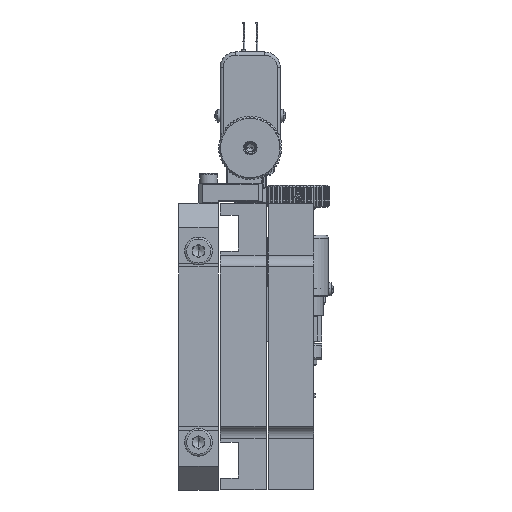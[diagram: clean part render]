
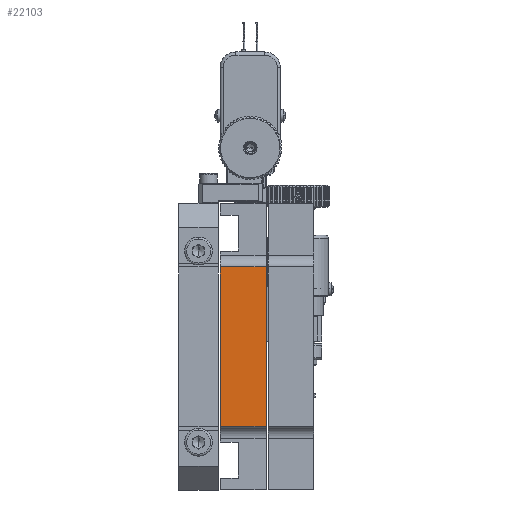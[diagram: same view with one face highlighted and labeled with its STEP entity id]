
A CAD part, front view. The second image highlights one B-rep face of the part: STEP entity #22103.
In plain terms, the highlighted planar face has unit normal (0, -1, 0).
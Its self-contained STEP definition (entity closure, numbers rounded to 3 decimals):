
#3640 = LINE ( 'NONE', #30600, #53688 ) ;
#6367 = DIRECTION ( 'NONE',  ( 0., -1., 0. ) ) ;
#6648 = EDGE_CURVE ( 'NONE', #79636, #74688, #3640, .T. ) ;
#7754 = VERTEX_POINT ( 'NONE', #57244 ) ;
#8533 = DIRECTION ( 'NONE',  ( 0., 0., -1. ) ) ;
#8878 = EDGE_CURVE ( 'NONE', #7754, #74688, #12157, .T. ) ;
#12157 = LINE ( 'NONE', #41091, #22406 ) ;
#12838 = EDGE_CURVE ( 'NONE', #23151, #79636, #74134, .T. ) ;
#15554 = ORIENTED_EDGE ( 'NONE', *, *, #12838, .T. ) ;
#16950 = ORIENTED_EDGE ( 'NONE', *, *, #70278, .F. ) ;
#22103 = ADVANCED_FACE ( 'NONE', ( #47323 ), #83511, .T. ) ;
#22406 = VECTOR ( 'NONE', #8533, 1000. ) ;
#23151 = VERTEX_POINT ( 'NONE', #36771 ) ;
#24002 = LINE ( 'NONE', #38903, #76136 ) ;
#25268 = DIRECTION ( 'NONE',  ( 0., 0., -1. ) ) ;
#30600 = CARTESIAN_POINT ( 'NONE',  ( 35.041, -56.279, -26.592 ) ) ;
#36771 = CARTESIAN_POINT ( 'NONE',  ( 35.541, -56.279, 13.408 ) ) ;
#38298 = VECTOR ( 'NONE', #72861, 1000. ) ;
#38903 = CARTESIAN_POINT ( 'NONE',  ( 35.041, -56.279, 13.408 ) ) ;
#41091 = CARTESIAN_POINT ( 'NONE',  ( 47.041, -56.279, 29.408 ) ) ;
#46538 = CARTESIAN_POINT ( 'NONE',  ( 35.541, -56.279, -30.592 ) ) ;
#47323 = FACE_OUTER_BOUND ( 'NONE', #55961, .T. ) ;
#53688 = VECTOR ( 'NONE', #75444, 1000. ) ;
#55961 = EDGE_LOOP ( 'NONE', ( #80642, #58538, #16950, #15554 ) ) ;
#57244 = CARTESIAN_POINT ( 'NONE',  ( 47.041, -56.279, 13.408 ) ) ;
#58538 = ORIENTED_EDGE ( 'NONE', *, *, #8878, .F. ) ;
#65209 = CARTESIAN_POINT ( 'NONE',  ( 59.041, -56.279, -6.592 ) ) ;
#70278 = EDGE_CURVE ( 'NONE', #23151, #7754, #24002, .T. ) ;
#71764 = AXIS2_PLACEMENT_3D ( 'NONE', #65209, #6367, #25268 ) ;
#72861 = DIRECTION ( 'NONE',  ( 0., 0., -1. ) ) ;
#72942 = CARTESIAN_POINT ( 'NONE',  ( 47.041, -56.279, -26.592 ) ) ;
#74134 = LINE ( 'NONE', #46538, #38298 ) ;
#74688 = VERTEX_POINT ( 'NONE', #72942 ) ;
#75444 = DIRECTION ( 'NONE',  ( 1., 0., 0. ) ) ;
#76136 = VECTOR ( 'NONE', #84630, 1000. ) ;
#79076 = CARTESIAN_POINT ( 'NONE',  ( 35.541, -56.279, -26.592 ) ) ;
#79636 = VERTEX_POINT ( 'NONE', #79076 ) ;
#80642 = ORIENTED_EDGE ( 'NONE', *, *, #6648, .T. ) ;
#83511 = PLANE ( 'NONE',  #71764 ) ;
#84630 = DIRECTION ( 'NONE',  ( 1., 0., 0. ) ) ;
